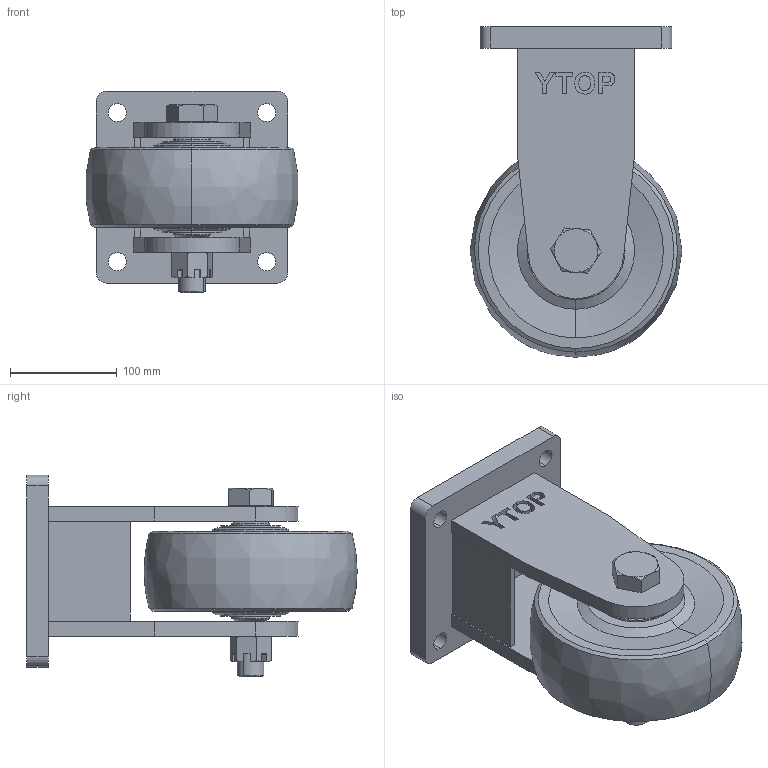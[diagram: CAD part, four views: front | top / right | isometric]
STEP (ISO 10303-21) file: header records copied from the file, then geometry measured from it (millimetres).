
FILE_DESCRIPTION (( 'STEP AP203' ), '1' );
FILE_NAME ('26-200G-75-MC.STEP', '2022-08-20T04:10:05', ( '' ), ( '' ), 'SwSTEP 2.0', 'SolidWorks 2016', '' );
FILE_SCHEMA (( 'CONFIG_CONTROL_DESIGN' ));
Length unit declared in the file: millimetre
Products named in the file (1): 26-200G-75-MC
Bounding box: 198.93 x 310 x 189 mm (x, y, z)
Volume: 3717717.5 mm3; surface area: 380490.4 mm2
Topology: 9 solids, 9 shells, 286 faces, 706 edges, 461 vertices
Faces by surface type: plane 149, cylinder 54, cone 45, bspline 38
Entity records: 10636 total; most frequent: CARTESIAN_POINT 3946, ORIENTED_EDGE 1412, DIRECTION 1253, EDGE_CURVE 706, VERTEX_POINT 461, LINE 421, VECTOR 421, AXIS2_PLACEMENT_3D 416
